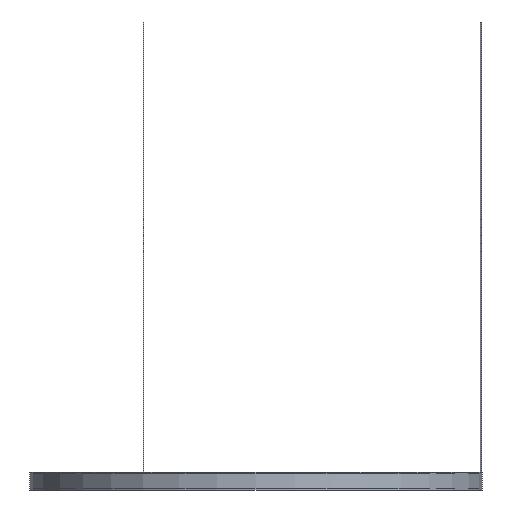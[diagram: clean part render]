
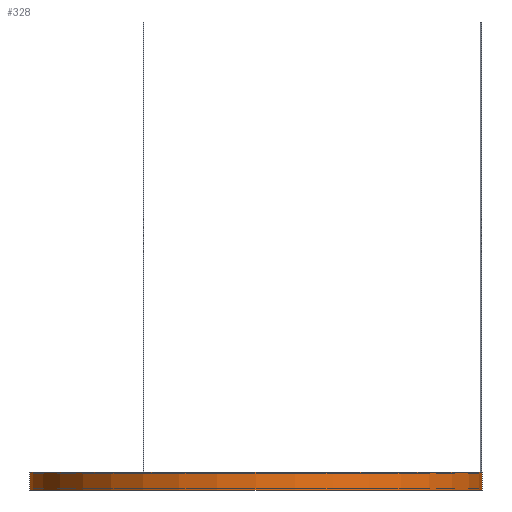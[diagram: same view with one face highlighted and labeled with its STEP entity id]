
A CAD part, front view. The second image highlights one B-rep face of the part: STEP entity #328.
In plain terms, the highlighted cylindrical face has radius 503 mm (diameter 1006 mm), a full revolution.
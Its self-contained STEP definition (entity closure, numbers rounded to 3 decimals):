
#10 = CARTESIAN_POINT ( 'NONE',  ( -503., 0., 40. ) ) ;
#27 = CARTESIAN_POINT ( 'NONE',  ( 0., 0., 40. ) ) ;
#40 = CARTESIAN_POINT ( 'NONE',  ( 0., 0., 0. ) ) ;
#41 = FACE_OUTER_BOUND ( 'NONE', #134, .T. ) ;
#134 = EDGE_LOOP ( 'NONE', ( #591 ) ) ;
#173 = AXIS2_PLACEMENT_3D ( 'NONE', #27, #514, #700 ) ;
#203 = CIRCLE ( 'NONE', #723, 503. ) ;
#229 = AXIS2_PLACEMENT_3D ( 'NONE', #313, #530, #325 ) ;
#298 = CARTESIAN_POINT ( 'NONE',  ( -503., 0., 0. ) ) ;
#306 = DIRECTION ( 'NONE',  ( 0., 0., -1. ) ) ;
#313 = CARTESIAN_POINT ( 'NONE',  ( 0., 0., 0. ) ) ;
#325 = DIRECTION ( 'NONE',  ( -1., 0., 0. ) ) ;
#328 = ADVANCED_FACE ( 'NONE', ( #384, #41 ), #378, .T. ) ;
#360 = VERTEX_POINT ( 'NONE', #10 ) ;
#378 = CYLINDRICAL_SURFACE ( 'NONE', #229, 503. ) ;
#384 = FACE_OUTER_BOUND ( 'NONE', #478, .T. ) ;
#478 = EDGE_LOOP ( 'NONE', ( #523 ) ) ;
#487 = VERTEX_POINT ( 'NONE', #298 ) ;
#514 = DIRECTION ( 'NONE',  ( 0., 0., -1. ) ) ;
#523 = ORIENTED_EDGE ( 'NONE', *, *, #557, .T. ) ;
#530 = DIRECTION ( 'NONE',  ( 0., 0., -1. ) ) ;
#557 = EDGE_CURVE ( 'NONE', #360, #360, #559, .T. ) ;
#559 = CIRCLE ( 'NONE', #173, 503. ) ;
#591 = ORIENTED_EDGE ( 'NONE', *, *, #670, .F. ) ;
#670 = EDGE_CURVE ( 'NONE', #487, #487, #203, .T. ) ;
#700 = DIRECTION ( 'NONE',  ( -1., 0., 0. ) ) ;
#723 = AXIS2_PLACEMENT_3D ( 'NONE', #40, #306, #863 ) ;
#863 = DIRECTION ( 'NONE',  ( -1., 0., 0. ) ) ;
